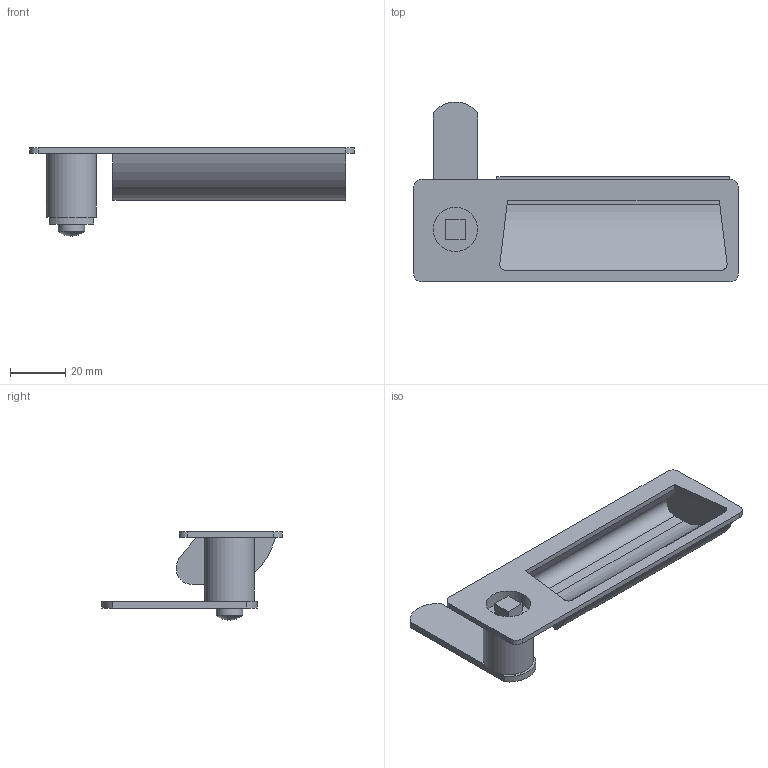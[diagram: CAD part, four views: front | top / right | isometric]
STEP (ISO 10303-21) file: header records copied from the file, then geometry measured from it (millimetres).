
FILE_DESCRIPTION( ( 'STEP AP203' ), '1' );
FILE_NAME( 'C:/Temp/Ganter_Step_05_03_2020/data/3_3/gn731_5/gn731_5_1/Latche with gripping tray GN 731.5-VK-0-46-1-SG (0-23).stp', '2020-03-12T11:49:20', ( 'License CC BY-ND 4.0' ), ( 'CADENAS' ), ' ', 'PARTsolutions', ' ' );
FILE_SCHEMA( ( 'CONFIG_CONTROL_DESIGN' ) );
Length unit declared in the file: millimetre
Products named in the file (3): Latche with gripping tray GN 731.5-VK-0-46-1-SG (0-23); _Latche with gripping tray GN 731.5-VK-0-46-1-SG (0)_1; _Latche with gripping tray GN 731.5-VK-0-46-1-SG (0-23)_2
Assembly tree (2 placements, depth 2):
  Latche with gripping tray GN 731.5-VK-0-46-1-SG (0-23)
    _Latche with gripping tray GN 731.5-VK-0-46-1-SG (0)_1
    _Latche with gripping tray GN 731.5-VK-0-46-1-SG (0-23)_2
Bounding box: 117 x 64.96 x 31.88 mm (x, y, z)
Volume: 24403.7 mm3; surface area: 20509.1 mm2
Topology: 2 solids, 2 shells, 85 faces, 215 edges, 140 vertices
Faces by surface type: plane 64, cylinder 20, sphere 1
Full cylindrical faces by diameter (mm): 9.5 x1, 16 x1, 18 x1
Entity records: 2615 total; most frequent: DIRECTION 445, CARTESIAN_POINT 433, ORIENTED_EDGE 416, EDGE_CURVE 208, AXIS2_PLACEMENT_3D 149, LINE 147, VECTOR 147, VERTEX_POINT 137
